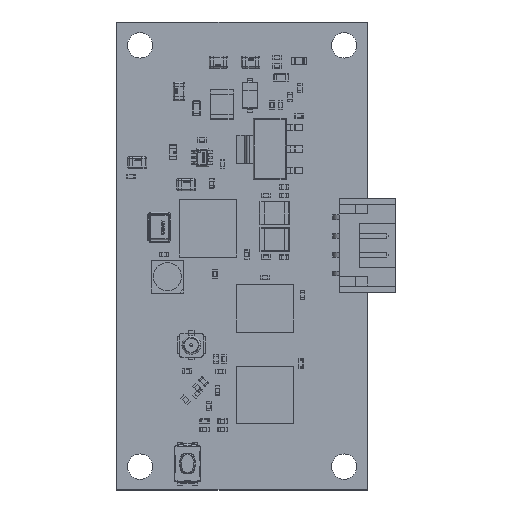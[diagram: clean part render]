
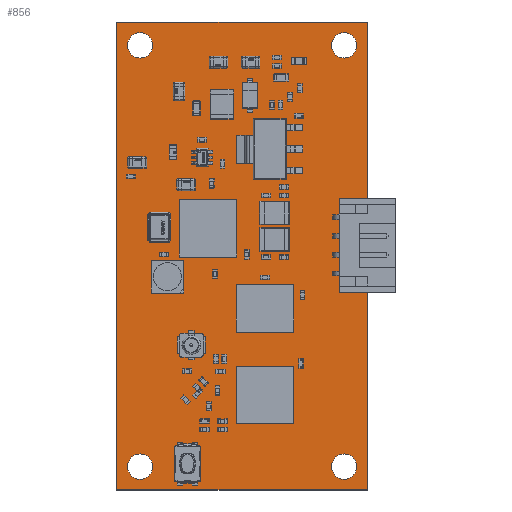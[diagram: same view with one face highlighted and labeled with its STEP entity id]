
A CAD part, top view. The second image highlights one B-rep face of the part: STEP entity #856.
In plain terms, the highlighted planar face has unit normal (0, 0, 1).
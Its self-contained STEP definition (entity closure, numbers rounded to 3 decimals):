
#583 = VERTEX_POINT('',#584);
#584 = CARTESIAN_POINT('',(0.,0.,1.598));
#590 = EDGE_CURVE('',#583,#591,#593,.T.);
#591 = VERTEX_POINT('',#592);
#592 = CARTESIAN_POINT('',(26.8,0.,1.598));
#593 = LINE('',#594,#595);
#594 = CARTESIAN_POINT('',(0.,0.,1.598));
#595 = VECTOR('',#596,1.);
#596 = DIRECTION('',(1.,0.,0.));
#621 = EDGE_CURVE('',#591,#622,#624,.T.);
#622 = VERTEX_POINT('',#623);
#623 = CARTESIAN_POINT('',(26.8,50.,1.598));
#624 = LINE('',#625,#626);
#625 = CARTESIAN_POINT('',(26.8,0.,1.598));
#626 = VECTOR('',#627,1.);
#627 = DIRECTION('',(0.,1.,0.));
#652 = EDGE_CURVE('',#622,#653,#655,.T.);
#653 = VERTEX_POINT('',#654);
#654 = CARTESIAN_POINT('',(0.,50.,1.598));
#655 = LINE('',#656,#657);
#656 = CARTESIAN_POINT('',(26.8,50.,1.598));
#657 = VECTOR('',#658,1.);
#658 = DIRECTION('',(-1.,0.,0.));
#683 = EDGE_CURVE('',#653,#583,#684,.T.);
#684 = LINE('',#685,#686);
#685 = CARTESIAN_POINT('',(0.,50.,1.598));
#686 = VECTOR('',#687,1.);
#687 = DIRECTION('',(0.,-1.,0.));
#707 = VERTEX_POINT('',#708);
#708 = CARTESIAN_POINT('',(3.85,2.5,1.598));
#714 = EDGE_CURVE('',#707,#707,#715,.T.);
#715 = CIRCLE('',#716,1.35);
#716 = AXIS2_PLACEMENT_3D('',#717,#718,#719);
#717 = CARTESIAN_POINT('',(2.5,2.5,1.598));
#718 = DIRECTION('',(0.,0.,1.));
#719 = DIRECTION('',(1.,0.,0.));
#740 = VERTEX_POINT('',#741);
#741 = CARTESIAN_POINT('',(3.85,47.5,1.598));
#747 = EDGE_CURVE('',#740,#740,#748,.T.);
#748 = CIRCLE('',#749,1.35);
#749 = AXIS2_PLACEMENT_3D('',#750,#751,#752);
#750 = CARTESIAN_POINT('',(2.5,47.5,1.598));
#751 = DIRECTION('',(0.,0.,1.));
#752 = DIRECTION('',(1.,0.,0.));
#773 = VERTEX_POINT('',#774);
#774 = CARTESIAN_POINT('',(25.65,2.5,1.598));
#780 = EDGE_CURVE('',#773,#773,#781,.T.);
#781 = CIRCLE('',#782,1.35);
#782 = AXIS2_PLACEMENT_3D('',#783,#784,#785);
#783 = CARTESIAN_POINT('',(24.3,2.5,1.598));
#784 = DIRECTION('',(0.,0.,1.));
#785 = DIRECTION('',(1.,0.,0.));
#806 = VERTEX_POINT('',#807);
#807 = CARTESIAN_POINT('',(25.65,47.5,1.598));
#813 = EDGE_CURVE('',#806,#806,#814,.T.);
#814 = CIRCLE('',#815,1.35);
#815 = AXIS2_PLACEMENT_3D('',#816,#817,#818);
#816 = CARTESIAN_POINT('',(24.3,47.5,1.598));
#817 = DIRECTION('',(0.,0.,1.));
#818 = DIRECTION('',(1.,0.,0.));
#856 = ADVANCED_FACE('',(#857,#863,#866,#869,#872),#875,.F.);
#857 = FACE_BOUND('',#858,.T.);
#858 = EDGE_LOOP('',(#859,#860,#861,#862));
#859 = ORIENTED_EDGE('',*,*,#590,.T.);
#860 = ORIENTED_EDGE('',*,*,#621,.T.);
#861 = ORIENTED_EDGE('',*,*,#652,.T.);
#862 = ORIENTED_EDGE('',*,*,#683,.T.);
#863 = FACE_BOUND('',#864,.F.);
#864 = EDGE_LOOP('',(#865));
#865 = ORIENTED_EDGE('',*,*,#714,.T.);
#866 = FACE_BOUND('',#867,.F.);
#867 = EDGE_LOOP('',(#868));
#868 = ORIENTED_EDGE('',*,*,#747,.T.);
#869 = FACE_BOUND('',#870,.F.);
#870 = EDGE_LOOP('',(#871));
#871 = ORIENTED_EDGE('',*,*,#780,.T.);
#872 = FACE_BOUND('',#873,.F.);
#873 = EDGE_LOOP('',(#874));
#874 = ORIENTED_EDGE('',*,*,#813,.T.);
#875 = PLANE('',#876);
#876 = AXIS2_PLACEMENT_3D('',#877,#878,#879);
#877 = CARTESIAN_POINT('',(0.,0.,1.598));
#878 = DIRECTION('',(0.,0.,-1.));
#879 = DIRECTION('',(-1.,0.,0.));
